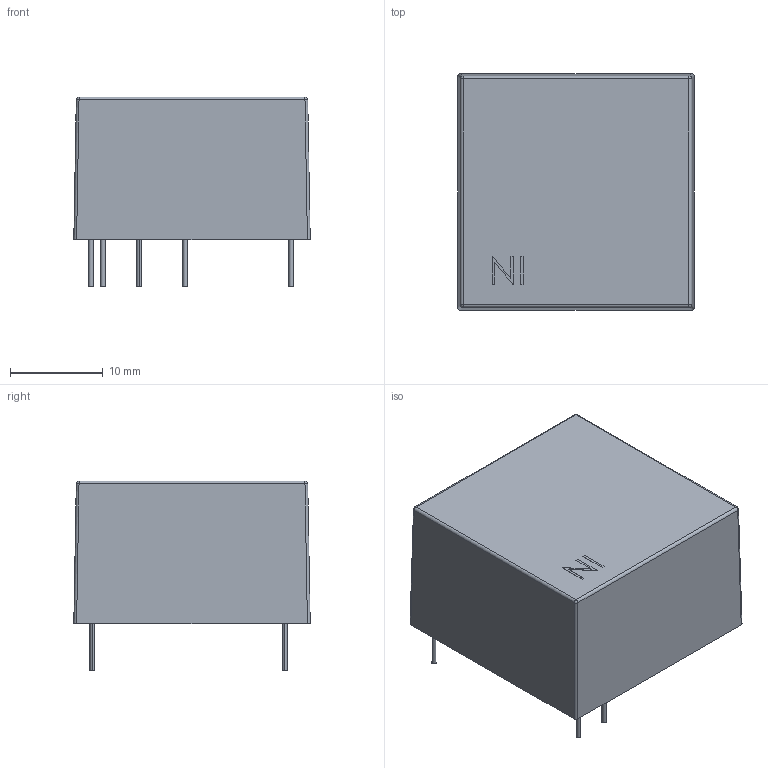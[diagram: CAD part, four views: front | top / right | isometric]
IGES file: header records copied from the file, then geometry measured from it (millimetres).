
Start section: SolidWorks IGES file using analytic representation for surfaces
Global section: file name: C:\Users\ksmith.XPNA\Desktop\ECE05\ECE05 encapsulated\ECE05 IGES.IGS; native system: SolidWorks 2014; preprocessor: SolidWorks 2014; author: ksmith; date: 141112.161805; units: inch
Bounding box: 25.5 x 25.5 x 20.47 mm (x, y, z)
Surface area: 5287.2 mm2 (no closed solid volume)
Topology: 0 solids, 0 shells, 124 faces, 980 edges, 980 vertices
Faces by surface type: bspline 97, revolution 27
